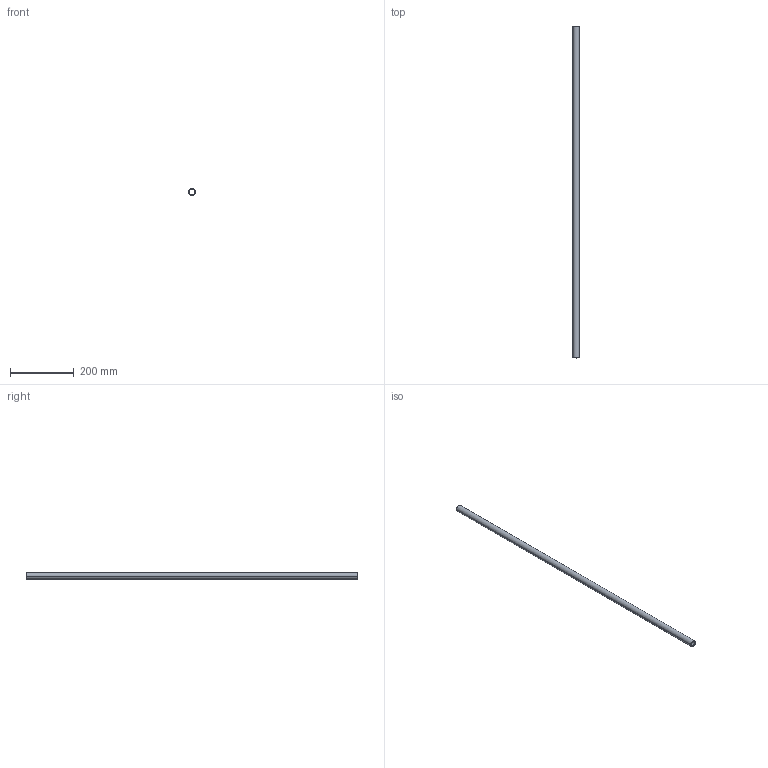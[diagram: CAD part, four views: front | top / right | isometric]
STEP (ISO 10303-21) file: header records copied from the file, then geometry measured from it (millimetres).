
FILE_DESCRIPTION((''),'2;1');
FILE_NAME('614271','2012-05-08T',('lff'),(''),'PRO/ENGINEER BY PARAMETRIC TECHNOLOGY CORPORATION, 2011080','PRO/ENGINEER BY PARAMETRIC TECHNOLOGY CORPORATION, 2011080','');
FILE_SCHEMA(('AUTOMOTIVE_DESIGN_CC2 { 1 2 10303 214 -1 1 5 2 }'));
Length unit declared in the file: millimetre
Products named in the file (1): 614271
Bounding box: 20.5 x 1045 x 20.5 mm (x, y, z)
Volume: 107612.7 mm3; surface area: 123313.3 mm2
Topology: 1 solids, 1 shells, 11 faces, 22 edges, 14 vertices
Faces by surface type: cylinder 6, plane 3, cone 2
Entity records: 451 total; most frequent: DIRECTION 58, CARTESIAN_POINT 47, ORIENTED_EDGE 44, COLOUR_RGB 39, AXIS2_PLACEMENT_3D 25, PRESENTATION_STYLE_ASSIGNMENT 25, STYLED_ITEM 23, CURVE_STYLE 22
